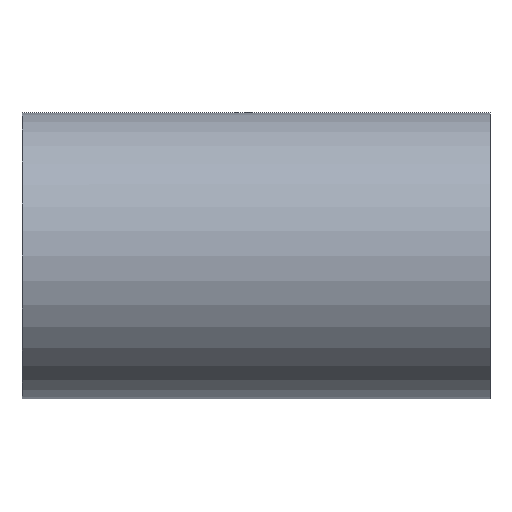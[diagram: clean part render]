
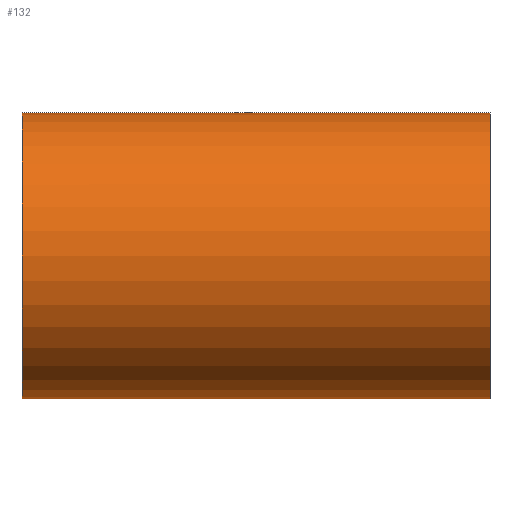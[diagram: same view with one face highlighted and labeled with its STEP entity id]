
A CAD part, front view. The second image highlights one B-rep face of the part: STEP entity #132.
In plain terms, the highlighted cylindrical face has radius 550 mm (diameter 1100 mm), a partial arc.
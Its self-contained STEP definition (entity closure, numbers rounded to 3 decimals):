
#132=ADVANCED_FACE('',(#260),#261,.T.);
#260=FACE_OUTER_BOUND('',#415,.T.);
#261=CYLINDRICAL_SURFACE('',#416,550.0);
#415=EDGE_LOOP('',(#739,#740,#741,#742));
#416=AXIS2_PLACEMENT_3D('',#743,#744,#745);
#739=ORIENTED_EDGE('',*,*,#827,.T.);
#740=ORIENTED_EDGE('',*,*,#968,.F.);
#741=ORIENTED_EDGE('',*,*,#829,.T.);
#742=ORIENTED_EDGE('',*,*,#969,.F.);
#743=CARTESIAN_POINT('',(0.0,0.0,0.0));
#744=DIRECTION('',(1.0,0.0,0.0));
#745=DIRECTION('',(0.0,0.0,-1.0));
#827=EDGE_CURVE('',#973,#974,#975,.T.);
#829=EDGE_CURVE('',#978,#976,#979,.T.);
#968=EDGE_CURVE('',#978,#974,#1186,.T.);
#969=EDGE_CURVE('',#973,#976,#1187,.T.);
#973=VERTEX_POINT('',#1191);
#974=VERTEX_POINT('',#1192);
#975=LINE('',#1193,#1194);
#976=VERTEX_POINT('',#1195);
#978=VERTEX_POINT('',#1197);
#979=LINE('',#1198,#1199);
#1186=CIRCLE('',#1440,550.0);
#1187=CIRCLE('',#1441,550.0);
#1191=CARTESIAN_POINT('',(-900.0,0.0,-550.0));
#1192=CARTESIAN_POINT('',(900.0,0.0,-550.0));
#1193=CARTESIAN_POINT('',(0.0,0.,-550.0));
#1194=VECTOR('',#1444,1.0);
#1195=CARTESIAN_POINT('',(-900.0,0.,550.0));
#1197=CARTESIAN_POINT('',(900.0,0.,550.0));
#1198=CARTESIAN_POINT('',(0.0,0.,550.0));
#1199=VECTOR('',#1448,1.0);
#1440=AXIS2_PLACEMENT_3D('',#1690,#1691,#1692);
#1441=AXIS2_PLACEMENT_3D('',#1693,#1694,#1695);
#1444=DIRECTION('',(1.0,0.0,0.0));
#1448=DIRECTION('',(-1.0,-0.0,-0.0));
#1690=CARTESIAN_POINT('',(900.0,0.0,0.0));
#1691=DIRECTION('',(1.0,0.0,0.0));
#1692=DIRECTION('',(0.0,0.0,-1.0));
#1693=CARTESIAN_POINT('',(-900.0,0.0,0.0));
#1694=DIRECTION('',(-1.0,0.0,0.0));
#1695=DIRECTION('',(0.0,0.0,-1.0));
